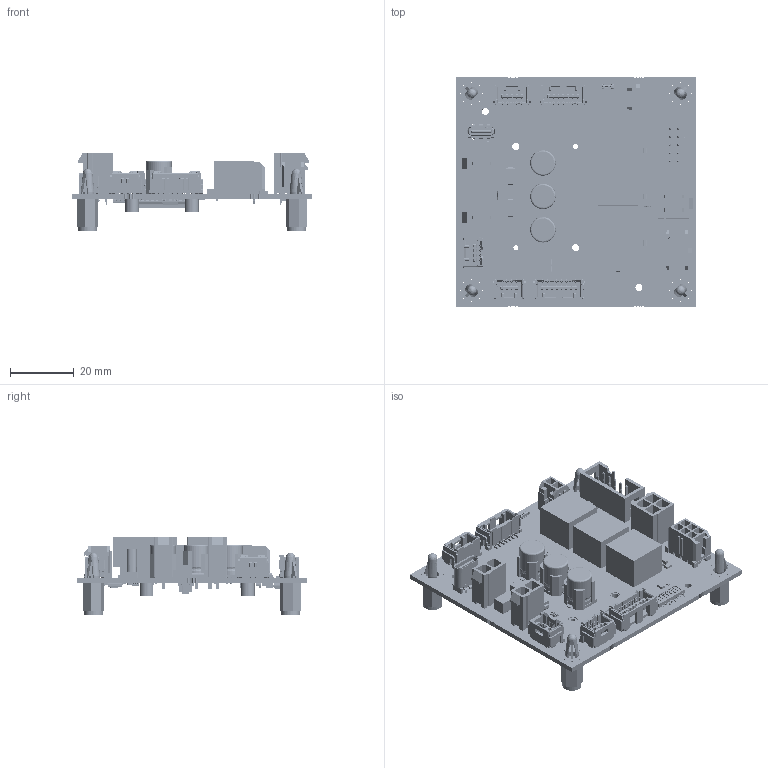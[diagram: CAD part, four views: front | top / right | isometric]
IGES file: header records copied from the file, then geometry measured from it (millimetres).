
Start section:  PTC IGES file: 809646_escon2_eb_micro.igs
Global section: file name: 809646_escon2_eb_micro.igs; native system: Creo Parametric by PTC Inc.; preprocessor: 2022484; author: MMAGGUKA; organization: Unknown; date: 20241010.170808; units: millimetre
Bounding box: 75.6 x 72 x 24.41 mm (x, y, z)
Surface area: 30555.4 mm2 (no closed solid volume)
Topology: 0 solids, 0 shells, 12377 faces, 78166 edges, 80676 vertices
Faces by surface type: bspline 9588, revolution 2718, extrusion 71
